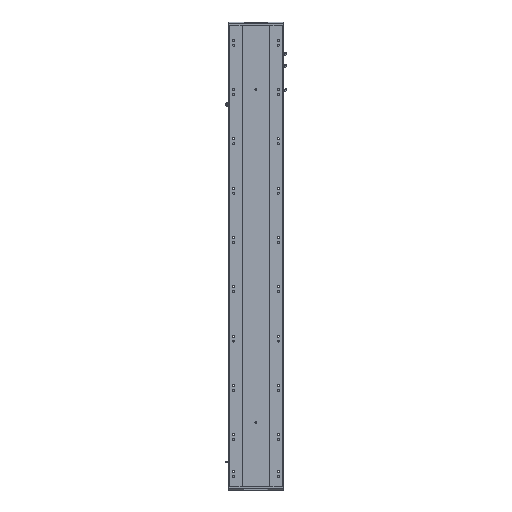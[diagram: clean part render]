
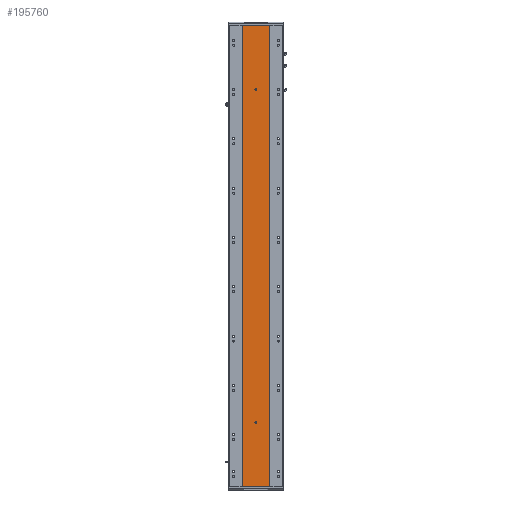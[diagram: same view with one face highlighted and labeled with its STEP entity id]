
A CAD part, front view. The second image highlights one B-rep face of the part: STEP entity #195760.
In plain terms, the highlighted planar face has unit normal (0, -1, 0).
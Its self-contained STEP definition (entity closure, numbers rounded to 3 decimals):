
#7868 = VECTOR ( 'NONE', #363127, 1000. ) ;
#14492 = CIRCLE ( 'NONE', #188694, 4. ) ;
#22788 = ORIENTED_EDGE ( 'NONE', *, *, #81931, .T. ) ;
#23565 = AXIS2_PLACEMENT_3D ( 'NONE', #356119, #281770, #145116 ) ;
#25315 = EDGE_CURVE ( 'NONE', #395361, #277481, #115693, .T. ) ;
#34967 = DIRECTION ( 'NONE',  ( 0., 1., 0. ) ) ;
#35979 = DIRECTION ( 'NONE',  ( 0., 0., -1. ) ) ;
#41904 = LINE ( 'NONE', #341191, #389491 ) ;
#42303 = CARTESIAN_POINT ( 'NONE',  ( 55., 0., 0. ) ) ;
#50270 = AXIS2_PLACEMENT_3D ( 'NONE', #74380, #34967, #109243 ) ;
#70030 = VECTOR ( 'NONE', #121513, 1000. ) ;
#72155 = VERTEX_POINT ( 'NONE', #426696 ) ;
#74380 = CARTESIAN_POINT ( 'NONE',  ( 0., 0., 261. ) ) ;
#74926 = CARTESIAN_POINT ( 'NONE',  ( 0., 0., 1610. ) ) ;
#81931 = EDGE_CURVE ( 'NONE', #72155, #307600, #41904, .T. ) ;
#88969 = CARTESIAN_POINT ( 'NONE',  ( -4., 0., 1870. ) ) ;
#95021 = EDGE_CURVE ( 'NONE', #307600, #395361, #247001, .T. ) ;
#96170 = CARTESIAN_POINT ( 'NONE',  ( 0., 0., 1614. ) ) ;
#97385 = CARTESIAN_POINT ( 'NONE',  ( 0., 0., 1610. ) ) ;
#99482 = AXIS2_PLACEMENT_3D ( 'NONE', #74926, #357190, #184112 ) ;
#102367 = PLANE ( 'NONE',  #111918 ) ;
#107255 = CARTESIAN_POINT ( 'NONE',  ( 55., 0., 1870. ) ) ;
#109243 = DIRECTION ( 'NONE',  ( 0., 0., 1. ) ) ;
#111918 = AXIS2_PLACEMENT_3D ( 'NONE', #450001, #166176, #241992 ) ;
#114826 = LINE ( 'NONE', #204776, #316019 ) ;
#115693 = LINE ( 'NONE', #88969, #197179 ) ;
#118497 = VERTEX_POINT ( 'NONE', #138654 ) ;
#121231 = ORIENTED_EDGE ( 'NONE', *, *, #25315, .T. ) ;
#121513 = DIRECTION ( 'NONE',  ( 1., 0., 0. ) ) ;
#123037 = CARTESIAN_POINT ( 'NONE',  ( 0., 0., 1870. ) ) ;
#129856 = VERTEX_POINT ( 'NONE', #42303 ) ;
#132375 = CARTESIAN_POINT ( 'NONE',  ( -4., 0., 261. ) ) ;
#136707 = DIRECTION ( 'NONE',  ( 0., 0., -1. ) ) ;
#138654 = CARTESIAN_POINT ( 'NONE',  ( 0., 0., 1606. ) ) ;
#145116 = DIRECTION ( 'NONE',  ( 0., 0., 1. ) ) ;
#146757 = ORIENTED_EDGE ( 'NONE', *, *, #217688, .T. ) ;
#166176 = DIRECTION ( 'NONE',  ( 0., 1., 0. ) ) ;
#176403 = EDGE_CURVE ( 'NONE', #286544, #419444, #114826, .T. ) ;
#178520 = EDGE_CURVE ( 'NONE', #323963, #129856, #310394, .T. ) ;
#184112 = DIRECTION ( 'NONE',  ( 0., 0., -1. ) ) ;
#188563 = CARTESIAN_POINT ( 'NONE',  ( 0., 0., 0. ) ) ;
#188694 = AXIS2_PLACEMENT_3D ( 'NONE', #97385, #340249, #136707 ) ;
#190885 = EDGE_LOOP ( 'NONE', ( #350801, #447865 ) ) ;
#195760 = ADVANCED_FACE ( 'NONE', ( #308286, #324450, #405916 ), #102367, .F. ) ;
#197179 = VECTOR ( 'NONE', #438070, 1000. ) ;
#204776 = CARTESIAN_POINT ( 'NONE',  ( -55., 0., 1870. ) ) ;
#217688 = EDGE_CURVE ( 'NONE', #419444, #129856, #371997, .T. ) ;
#217832 = ORIENTED_EDGE ( 'NONE', *, *, #176403, .T. ) ;
#227726 = LINE ( 'NONE', #123037, #70030 ) ;
#231918 = CIRCLE ( 'NONE', #99482, 4. ) ;
#235287 = VERTEX_POINT ( 'NONE', #96170 ) ;
#241992 = DIRECTION ( 'NONE',  ( 0., 0., 1. ) ) ;
#247001 = CIRCLE ( 'NONE', #23565, 4. ) ;
#251854 = CARTESIAN_POINT ( 'NONE',  ( 55., 0., 1870. ) ) ;
#253506 = EDGE_CURVE ( 'NONE', #286544, #323963, #227726, .T. ) ;
#265045 = CARTESIAN_POINT ( 'NONE',  ( -4., 0., 259. ) ) ;
#270040 = CARTESIAN_POINT ( 'NONE',  ( -55., 0., 1870. ) ) ;
#275796 = DIRECTION ( 'NONE',  ( 0., 0., -1. ) ) ;
#277481 = VERTEX_POINT ( 'NONE', #132375 ) ;
#277926 = ORIENTED_EDGE ( 'NONE', *, *, #333852, .T. ) ;
#281770 = DIRECTION ( 'NONE',  ( 0., 1., 0. ) ) ;
#286544 = VERTEX_POINT ( 'NONE', #270040 ) ;
#289732 = CARTESIAN_POINT ( 'NONE',  ( 4., 0., 259. ) ) ;
#307600 = VERTEX_POINT ( 'NONE', #289732 ) ;
#308286 = FACE_BOUND ( 'NONE', #190885, .T. ) ;
#310098 = CARTESIAN_POINT ( 'NONE',  ( -55., 0., 0. ) ) ;
#310394 = LINE ( 'NONE', #107255, #419245 ) ;
#316019 = VECTOR ( 'NONE', #421921, 1000. ) ;
#323963 = VERTEX_POINT ( 'NONE', #251854 ) ;
#324450 = FACE_BOUND ( 'NONE', #420696, .T. ) ;
#330028 = EDGE_CURVE ( 'NONE', #235287, #118497, #231918, .T. ) ;
#333852 = EDGE_CURVE ( 'NONE', #277481, #72155, #389111, .T. ) ;
#340249 = DIRECTION ( 'NONE',  ( 0., -1., 0. ) ) ;
#341191 = CARTESIAN_POINT ( 'NONE',  ( 4., 0., 1870. ) ) ;
#350267 = ORIENTED_EDGE ( 'NONE', *, *, #95021, .T. ) ;
#350801 = ORIENTED_EDGE ( 'NONE', *, *, #365870, .F. ) ;
#356119 = CARTESIAN_POINT ( 'NONE',  ( 0., 0., 259. ) ) ;
#357190 = DIRECTION ( 'NONE',  ( 0., -1., 0. ) ) ;
#363127 = DIRECTION ( 'NONE',  ( 1., 0., 0. ) ) ;
#365870 = EDGE_CURVE ( 'NONE', #118497, #235287, #14492, .T. ) ;
#371997 = LINE ( 'NONE', #188563, #7868 ) ;
#386571 = ORIENTED_EDGE ( 'NONE', *, *, #253506, .F. ) ;
#389111 = CIRCLE ( 'NONE', #50270, 4. ) ;
#389491 = VECTOR ( 'NONE', #275796, 1000. ) ;
#395361 = VERTEX_POINT ( 'NONE', #265045 ) ;
#405916 = FACE_OUTER_BOUND ( 'NONE', #406294, .T. ) ;
#406294 = EDGE_LOOP ( 'NONE', ( #146757, #408147, #386571, #217832 ) ) ;
#408147 = ORIENTED_EDGE ( 'NONE', *, *, #178520, .F. ) ;
#419245 = VECTOR ( 'NONE', #35979, 1000. ) ;
#419444 = VERTEX_POINT ( 'NONE', #310098 ) ;
#420696 = EDGE_LOOP ( 'NONE', ( #121231, #277926, #22788, #350267 ) ) ;
#421921 = DIRECTION ( 'NONE',  ( 0., 0., -1. ) ) ;
#426696 = CARTESIAN_POINT ( 'NONE',  ( 4., 0., 261. ) ) ;
#438070 = DIRECTION ( 'NONE',  ( 0., 0., 1. ) ) ;
#447865 = ORIENTED_EDGE ( 'NONE', *, *, #330028, .F. ) ;
#450001 = CARTESIAN_POINT ( 'NONE',  ( 0., 0., 1870. ) ) ;
